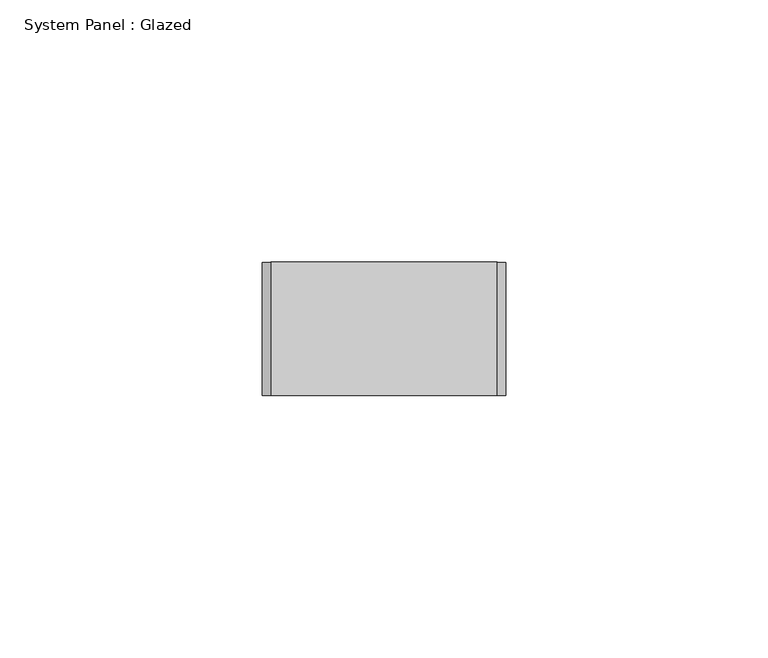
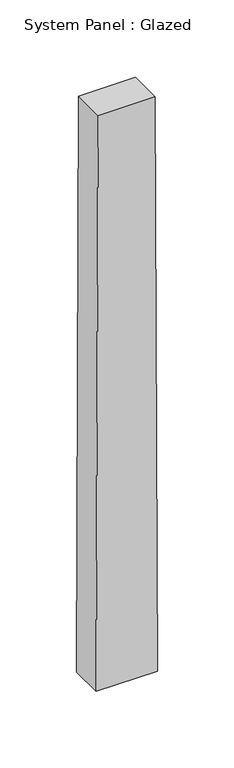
"""IFC4 building model written with IfcOpenShell, lengths in millimetres: plate geometry, System Panel : Glazed."""

from ifc_helpers import new_model, si_unit, frame, origin, place, context, project, spatial, polyline, outline, extrude, source, transform, mapped, element, save


def system_panel_glazed_ba7116ad(model_context):
    return source(origin(), model_context, "Body", "SweptSolid", [
        extrude(outline(polyline([(0.0, -23.1953462), (0.0, 23.1953462), (458.6050276, 21.6182904), (458.6050276, -21.6182904), (0.0, -23.1953462)])), frame((0.0, -44.45, 0.0), z_axis=(0.0, 1.0, 0.0), x_axis=(0.0, 0.0, 1.0)), (0.0, 0.0, 1.0), 25.4),
    ])


if __name__ == "__main__":
    model = new_model("IFC4")
    model_context = context("Model", 3, world=origin())
    ifc_project = project(units=[si_unit("LENGTHUNIT", "METRE", prefix="MILLI")], contexts=[model_context])
    site = spatial("IfcSite", under=ifc_project)
    building = spatial("IfcBuilding", under=site)
    placement = place(None, origin())
    system_panel_glazed_shape = system_panel_glazed_ba7116ad(model_context)
    element("IfcPlate", 1, ObjectType="System Panel : Glazed", at=placement, inside=building, context=model_context, shape_type="MappedRepresentation", body=[
        mapped(system_panel_glazed_shape, transform((0.0, 0.0, 0.0), x_axis=(1.0, 0.0, 0.0), y_axis=(0.0, 1.0, 0.0), z_axis=(0.0, 0.0, 1.0))),
    ])
    save(model, "model.ifc")
